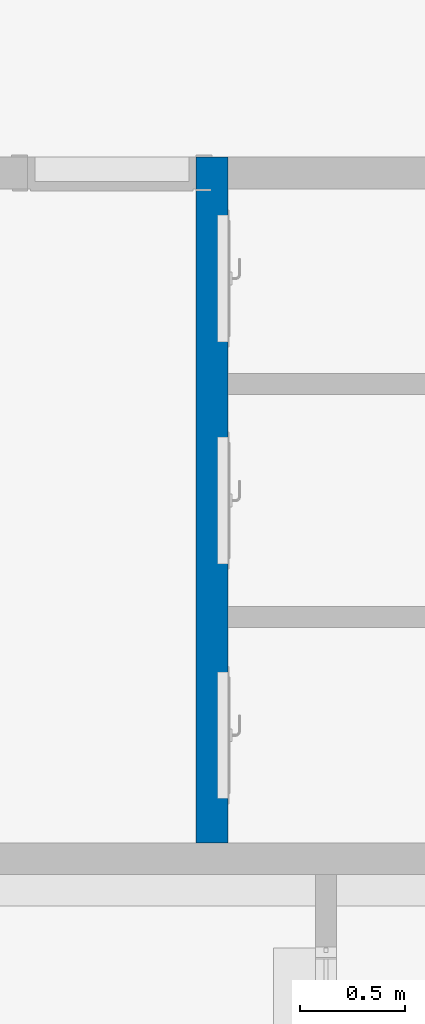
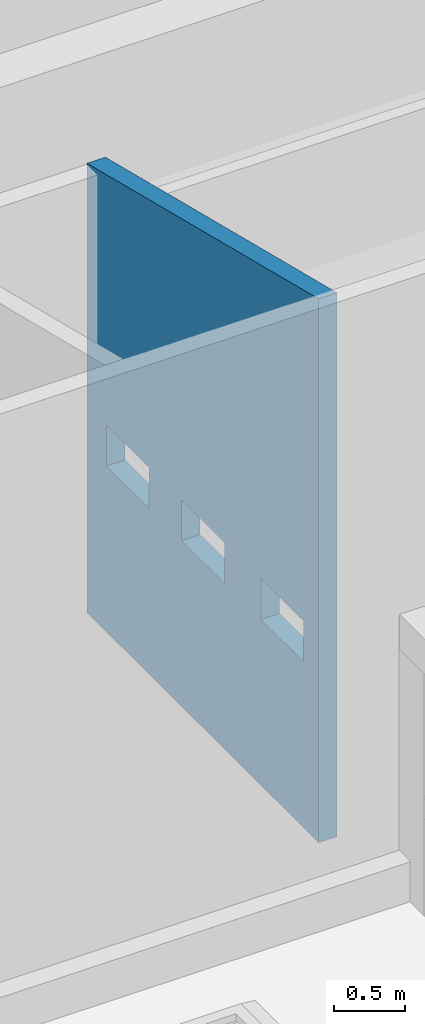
# One storey, part 132 of 153: 1 wall, 4 openings.
"""IFC4 building model written with IfcOpenShell, lengths in metres."""

from ifc_helpers import new_model, entity, si_unit, converted_unit, derived_unit, direction, frame, origin, place, context, subcontext, project, spatial, indexed_curve, outline, extrude, polygons, material, type_object, element, save


model = new_model("IFC4")

# Units and contexts
model_context = context("Model", 3, precision=1e-05, world=origin(), true_north=direction((6.123031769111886e-17, 1.0)))
body_context = subcontext(model_context, "Body", "Model", "MODEL_VIEW")
ifc_project = project(units=[si_unit("LENGTHUNIT", "METRE"), si_unit("AREAUNIT", "SQUARE_METRE"), si_unit("VOLUMEUNIT", "CUBIC_METRE"), converted_unit("PLANEANGLEUNIT", "DEGREE", entity("IfcRatioMeasure", 0.017453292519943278), si_unit("PLANEANGLEUNIT", "RADIAN"), dimensions=[0, 0, 0, 0, 0, 0, 0]), si_unit("MASSUNIT", "GRAM", prefix="KILO"), derived_unit("MASSDENSITYUNIT", [(si_unit("MASSUNIT", "GRAM", prefix="KILO"), 1), (si_unit("LENGTHUNIT", "METRE"), -3)]), derived_unit("MOMENTOFINERTIAUNIT", [(si_unit("LENGTHUNIT", "METRE"), 4)]), si_unit("TIMEUNIT", "SECOND"), si_unit("FREQUENCYUNIT", "HERTZ"), si_unit("THERMODYNAMICTEMPERATUREUNIT", "DEGREE_CELSIUS"), derived_unit("THERMALTRANSMITTANCEUNIT", [(si_unit("MASSUNIT", "GRAM", prefix="KILO"), 1), (si_unit("THERMODYNAMICTEMPERATUREUNIT", "KELVIN"), -1), (si_unit("TIMEUNIT", "SECOND"), -3)]), derived_unit("VOLUMETRICFLOWRATEUNIT", [(si_unit("LENGTHUNIT", "METRE"), 3), (si_unit("TIMEUNIT", "SECOND"), -1)]), derived_unit("MASSFLOWRATEUNIT", [(si_unit("MASSUNIT", "GRAM", prefix="KILO"), 1), (si_unit("TIMEUNIT", "SECOND"), -1)]), derived_unit("ROTATIONALFREQUENCYUNIT", [(si_unit("TIMEUNIT", "SECOND"), -1)]), si_unit("ELECTRICCURRENTUNIT", "AMPERE"), si_unit("ELECTRICVOLTAGEUNIT", "VOLT"), si_unit("POWERUNIT", "WATT"), si_unit("FORCEUNIT", "NEWTON", prefix="KILO"), si_unit("ILLUMINANCEUNIT", "LUX"), si_unit("LUMINOUSFLUXUNIT", "LUMEN"), si_unit("LUMINOUSINTENSITYUNIT", "CANDELA"), derived_unit("USERDEFINED", [(si_unit("MASSUNIT", "GRAM", prefix="KILO"), -1), (si_unit("LENGTHUNIT", "METRE"), -2), (si_unit("TIMEUNIT", "SECOND"), 3), (si_unit("LUMINOUSFLUXUNIT", "LUMEN"), 1)]), derived_unit("SOUNDPOWERUNIT", [(si_unit("MASSUNIT", "GRAM", prefix="KILO"), 1), (si_unit("LENGTHUNIT", "METRE"), 2), (si_unit("TIMEUNIT", "SECOND"), -3)]), derived_unit("SOUNDPRESSUREUNIT", [(si_unit("MASSUNIT", "GRAM", prefix="KILO"), 1), (si_unit("LENGTHUNIT", "METRE"), -1), (si_unit("TIMEUNIT", "SECOND"), -2)]), derived_unit("LINEARVELOCITYUNIT", [(si_unit("LENGTHUNIT", "METRE"), 1), (si_unit("TIMEUNIT", "SECOND"), -1)]), si_unit("PRESSUREUNIT", "PASCAL"), derived_unit("USERDEFINED", [(si_unit("LENGTHUNIT", "METRE"), -2), (si_unit("MASSUNIT", "GRAM", prefix="KILO"), 1), (si_unit("TIMEUNIT", "SECOND"), -2)]), derived_unit("LINEARFORCEUNIT", [(si_unit("MASSUNIT", "GRAM", prefix="KILO"), 1), (si_unit("LENGTHUNIT", "METRE"), 1), (si_unit("TIMEUNIT", "SECOND"), -2), (si_unit("LENGTHUNIT", "METRE"), -1)]), derived_unit("PLANARFORCEUNIT", [(si_unit("MASSUNIT", "GRAM", prefix="KILO"), 1), (si_unit("LENGTHUNIT", "METRE"), 1), (si_unit("TIMEUNIT", "SECOND"), -2), (si_unit("LENGTHUNIT", "METRE"), -2)])], contexts=[model_context])

# Site, building, storey
site_placement = place(None, origin())
site = spatial("IfcSite", under=ifc_project, at=site_placement, Name="Superficie", CompositionType="ELEMENT")
building_placement = place(site_placement, origin())
building = spatial("IfcBuilding", under=site, at=building_placement, CompositionType="ELEMENT")
storey_placement = place(building_placement, frame((0.0, 0.0, 3.5999999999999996)))
storey = spatial("IfcBuildingStorey", under=building, at=storey_placement, Name="Nivel 1", CompositionType="ELEMENT", Elevation=3.5999999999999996)

# Wall, openings
ifc_material = material(Name="Muro por defecto", Category="Varios")
wall_type = type_object("IfcWallType", Name="Muro básico:Por defecto - 15 cm 2", PredefinedType="STANDARD")
wall_placement = place(storey_placement, frame((-13.56399804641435, 5.7758292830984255, 0.5199999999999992), z_axis=(0.0, 0.0, 1.0), x_axis=(0.0, 1.0, 0.0)))
wall = element("IfcWall", 1, at=wall_placement, inside=storey, type_object=wall_type, material=ifc_material, Name="Muro básico:Por defecto - 15 cm 2", ObjectType="Muro básico:Por defecto - 15 cm 2", PredefinedType="NOTDEFINED", context=body_context, shape_type="Tessellation", body=[
    polygons([(0.0, -0.07499999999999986, 4.65504637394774), (1.0828671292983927e-15, -0.07500000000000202, 5.414335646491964e-16), (1.0199999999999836, -0.07500000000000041, 5.414335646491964e-16), (1.1199999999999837, -0.07500000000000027, 5.414335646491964e-16), (3.2499999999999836, -0.07499999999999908, 5.414335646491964e-16), (3.2499999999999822, -0.07499999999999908, 3.44297907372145), (3.2499999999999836, -0.07499999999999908, 3.8447303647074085), (0.20999999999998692, -0.07499999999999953, 1.42), (0.20999999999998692, -0.07499999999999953, 1.7699999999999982), (0.8099999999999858, -0.07500000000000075, 1.7699999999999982), (0.8099999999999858, -0.07500000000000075, 1.42), (1.3224999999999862, -0.07499999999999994, 1.42), (1.3224999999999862, -0.07499999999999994, 1.7699999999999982), (1.922499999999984, -0.07499999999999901, 1.7699999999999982), (1.922499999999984, -0.07499999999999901, 1.42), (2.3749999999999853, -0.07500000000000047, 1.42), (2.3749999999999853, -0.07500000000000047, 1.7699999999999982), (2.9749999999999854, -0.07499999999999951, 1.7699999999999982), (2.9749999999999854, -0.07499999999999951, 1.42), (1.0828671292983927e-15, 0.07499999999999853, 5.414335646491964e-16), (0.0, 0.07500000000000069, 4.65504637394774), (3.2499999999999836, 0.07500000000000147, 3.8447303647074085), (3.2499999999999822, 0.07500000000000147, 3.8359014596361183), (3.2499999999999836, 0.07500000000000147, 2.099999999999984), (3.2499999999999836, 0.07500000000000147, 5.414335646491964e-16), (0.20999999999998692, 0.07500000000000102, 1.42), (0.8099999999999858, 0.0749999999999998, 1.42), (0.8099999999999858, 0.0749999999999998, 1.7699999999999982), (0.20999999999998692, 0.07500000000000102, 1.7699999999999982), (1.3224999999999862, 0.07500000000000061, 1.42), (1.922499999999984, 0.07500000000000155, 1.42), (1.922499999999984, 0.07500000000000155, 1.7699999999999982), (1.3224999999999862, 0.07500000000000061, 1.7699999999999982), (2.3749999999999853, 0.0750000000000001, 1.42), (2.9749999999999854, 0.07500000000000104, 1.42), (2.9749999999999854, 0.07500000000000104, 1.7699999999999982), (2.3749999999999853, 0.0750000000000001, 1.7699999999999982)], [[[1, 2, 3, 4, 5, 6, 7], [8, 9, 10, 11], [12, 13, 14, 15], [16, 17, 18, 19]], [[20, 21, 22, 23, 24, 25], [26, 27, 28, 29], [30, 31, 32, 33], [34, 35, 36, 37]], [[1, 21, 20, 2]], [[9, 8, 26, 29]], [[10, 9, 29, 28]], [[11, 10, 28, 27]], [[8, 11, 27, 26]], [[13, 12, 30, 33]], [[14, 13, 33, 32]], [[15, 14, 32, 31]], [[12, 15, 31, 30]], [[17, 16, 34, 37]], [[18, 17, 37, 36]], [[19, 18, 36, 35]], [[16, 19, 35, 34]], [[5, 25, 24, 23, 22, 7, 6]], [[1, 7, 22, 21]], [[5, 4, 3, 2, 20, 25]]], closed=True),
])
opening_1_placement = place(wall_placement, origin())
element("IfcOpeningElement", 2, at=opening_1_placement, cuts=wall, Name="Muro básico:Por defecto - 15 cm 2", PredefinedType="OPENING", context=body_context, shape_type="SweptSolid", body=[
    extrude(outline(indexed_curve([(-0.07500000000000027, -1.049999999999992), (0.07499999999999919, -1.049999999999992), (0.07499999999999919, 1.0499999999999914), (-0.07500000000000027, 1.0499999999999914), (-0.07500000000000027, -1.049999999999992)], self_intersect=False)), frame((3.1749999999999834, 0.07500000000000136, 1.049999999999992), z_axis=(0.0, 1.0, 0.0), x_axis=(1.0, 0.0, 0.0)), (0.0, 0.0, 1.0), 0.8),
])
opening_2_placement = place(wall_placement, frame((0.20999999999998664, -0.07500000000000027, 1.42)))
element("IfcOpeningElement", 3, at=opening_2_placement, cuts=wall, Name="Ventana basculante:35 x 60mm 3:1", PredefinedType="OPENING", context=body_context, shape_type="SweptSolid", body=[
    extrude(outline(indexed_curve([(0.0, -1.4825291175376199e-30), (0.3499999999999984, -1.4825291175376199e-30), (0.34999999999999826, 0.5999999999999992), (0.0, 0.5999999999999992), (0.0, -1.4825291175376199e-30)], self_intersect=False)), frame((0.0, 0.0, 0.0), z_axis=(0.0, 1.0, 0.0), x_axis=(0.0, 0.0, 1.0)), (0.0, 0.0, 1.0), 0.14999999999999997),
])
opening_3_placement = place(wall_placement, frame((1.322499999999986, -0.07500000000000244, 1.42)))
element("IfcOpeningElement", 4, at=opening_3_placement, cuts=wall, Name="Ventana basculante:35 x 60mm 3:1", PredefinedType="OPENING", context=body_context, shape_type="SweptSolid", body=[
    extrude(outline(indexed_curve([(0.0, -1.4825291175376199e-30), (0.3499999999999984, -1.4825291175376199e-30), (0.34999999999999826, 0.5999999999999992), (0.0, 0.5999999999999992), (0.0, -1.4825291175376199e-30)], self_intersect=False)), frame((0.0, 0.0, 0.0), z_axis=(0.0, 1.0, 0.0), x_axis=(0.0, 0.0, 1.0)), (0.0, 0.0, 1.0), 0.14999999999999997),
])
opening_4_placement = place(wall_placement, frame((2.3749999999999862, -0.0750000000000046, 1.42)))
element("IfcOpeningElement", 5, at=opening_4_placement, cuts=wall, Name="Ventana basculante:35 x 60mm 3:1", PredefinedType="OPENING", context=body_context, shape_type="SweptSolid", body=[
    extrude(outline(indexed_curve([(0.0, -1.4825291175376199e-30), (0.3499999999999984, -1.4825291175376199e-30), (0.34999999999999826, 0.5999999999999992), (0.0, 0.5999999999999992), (0.0, -1.4825291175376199e-30)], self_intersect=False)), frame((0.0, 0.0, 0.0), z_axis=(0.0, 1.0, 0.0), x_axis=(0.0, 0.0, 1.0)), (0.0, 0.0, 1.0), 0.14999999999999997),
])

save(model, "model.ifc")
